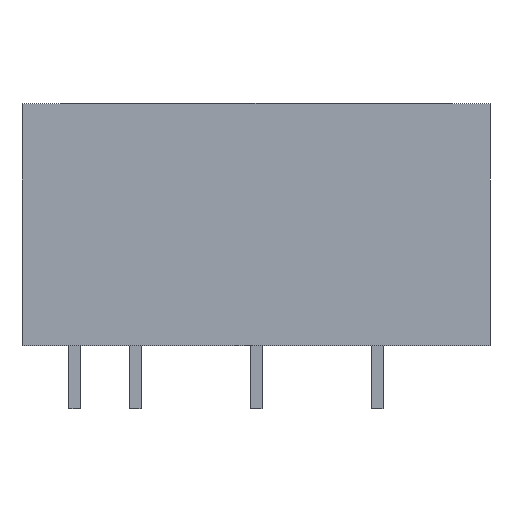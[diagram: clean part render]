
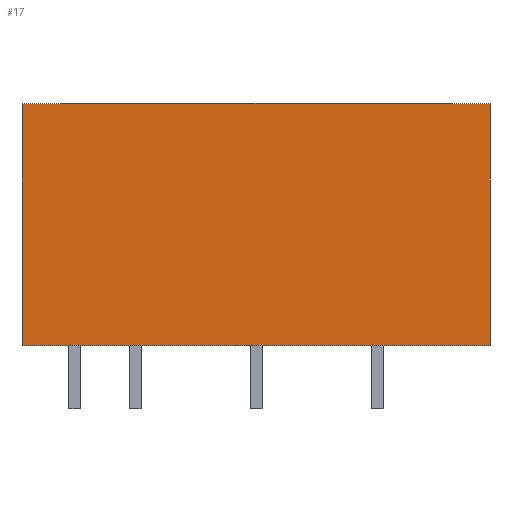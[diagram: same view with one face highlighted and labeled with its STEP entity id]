
A CAD part, front view. The second image highlights one B-rep face of the part: STEP entity #17.
In plain terms, the highlighted planar face has unit normal (0, -1, 0).
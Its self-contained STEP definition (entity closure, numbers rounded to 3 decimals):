
#17 = ADVANCED_FACE('',(#18),#52,.F.);
#18 = FACE_BOUND('',#19,.F.);
#19 = EDGE_LOOP('',(#20,#30,#38,#46));
#20 = ORIENTED_EDGE('',*,*,#21,.T.);
#21 = EDGE_CURVE('',#22,#24,#26,.T.);
#22 = VERTEX_POINT('',#23);
#23 = CARTESIAN_POINT('',(-9.825,-3.5,0.15));
#24 = VERTEX_POINT('',#25);
#25 = CARTESIAN_POINT('',(-9.825,-3.5,10.31));
#26 = LINE('',#27,#28);
#27 = CARTESIAN_POINT('',(-9.825,-3.5,0.15));
#28 = VECTOR('',#29,1.);
#29 = DIRECTION('',(0.,0.,1.));
#30 = ORIENTED_EDGE('',*,*,#31,.T.);
#31 = EDGE_CURVE('',#24,#32,#34,.T.);
#32 = VERTEX_POINT('',#33);
#33 = CARTESIAN_POINT('',(9.825,-3.5,10.31));
#34 = LINE('',#35,#36);
#35 = CARTESIAN_POINT('',(-9.825,-3.5,10.31));
#36 = VECTOR('',#37,1.);
#37 = DIRECTION('',(1.,0.,0.));
#38 = ORIENTED_EDGE('',*,*,#39,.F.);
#39 = EDGE_CURVE('',#40,#32,#42,.T.);
#40 = VERTEX_POINT('',#41);
#41 = CARTESIAN_POINT('',(9.825,-3.5,0.15));
#42 = LINE('',#43,#44);
#43 = CARTESIAN_POINT('',(9.825,-3.5,0.15));
#44 = VECTOR('',#45,1.);
#45 = DIRECTION('',(0.,0.,1.));
#46 = ORIENTED_EDGE('',*,*,#47,.F.);
#47 = EDGE_CURVE('',#22,#40,#48,.T.);
#48 = LINE('',#49,#50);
#49 = CARTESIAN_POINT('',(-9.825,-3.5,0.15));
#50 = VECTOR('',#51,1.);
#51 = DIRECTION('',(1.,0.,0.));
#52 = PLANE('',#53);
#53 = AXIS2_PLACEMENT_3D('',#54,#55,#56);
#54 = CARTESIAN_POINT('',(-9.825,-3.5,0.15));
#55 = DIRECTION('',(0.,1.,0.));
#56 = DIRECTION('',(1.,0.,0.));
